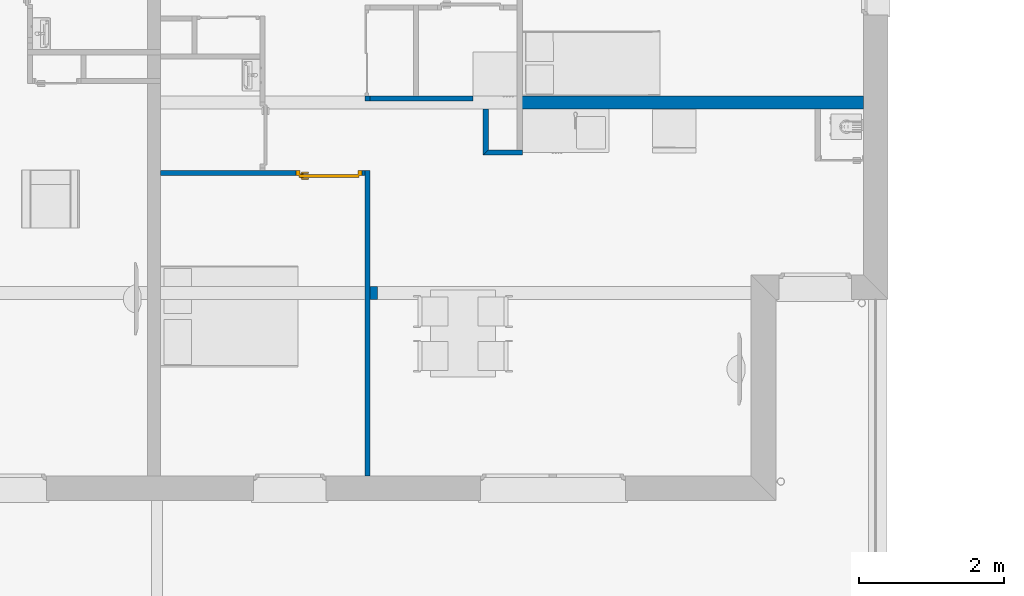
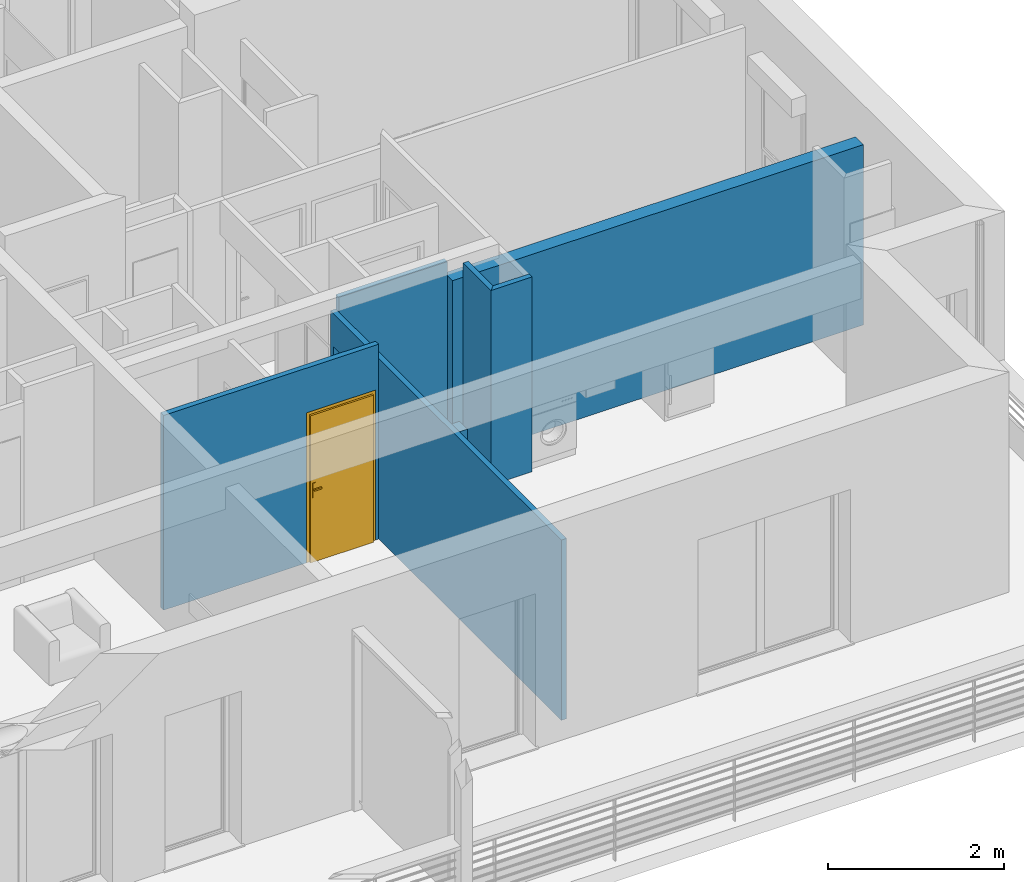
# One storey, part 7 of 165: 7 walls, 1 door, 2 openings.
"""IFC2X3 building model written with IfcOpenShell, lengths in millimetres."""

import ifcopenshell
import ifcopenshell.guid

model = None  # the IFC model being written
_history = None  # IfcOwnerHistory: only IFC2X3 demands one
_inside = {}  # id of a spatial element -> (the spatial element, [elements in it])
_under = {}  # id of a project, library or spatial element -> (it, [spatial elements below it])
_declared = {}  # id of a project -> (the project, [libraries it declares])
_typed = {}  # id of a type object -> (the type object, [elements of that type])
_made_of = {}  # id of a material, layer set ... -> (it, [elements and type objects made of it])


def new_model(schema):
    """Start an empty IFC model of exactly this schema.

    Asked for "IFC4X3", IfcOpenShell would pick the latest addendum, in which some entities
    have other attributes; the version numbers below select the first issue.
    IFC2X3 requires an IfcOwnerHistory on every rooted entity: one is made here for all.
    """
    global model, _history
    if schema == "IFC4X3":
        model = ifcopenshell.file(schema_version=(4, 3, 0, 0))
    else:
        model = ifcopenshell.file(schema=schema)
    _inside.clear()
    _under.clear()
    _declared.clear()
    _typed.clear()
    _made_of.clear()
    _history = None
    if model.schema == "IFC2X3":
        org = make("IfcOrganization", Name="unknown")
        user = make(
            "IfcPersonAndOrganization",
            ThePerson=make("IfcPerson", FamilyName="unknown"),
            TheOrganization=org,
        )
        app = make(
            "IfcApplication",
            ApplicationDeveloper=org,
            Version="unknown",
            ApplicationFullName="unknown",
            ApplicationIdentifier="unknown",
        )
        _history = make(
            "IfcOwnerHistory",
            OwningUser=user,
            OwningApplication=app,
            ChangeAction="ADDED",
            CreationDate=0,
        )
    return model


def make(cls, **values):
    """One entity of the class cls with the attributes given. An attribute that is None is left unset."""
    return model.create_entity(
        cls, **{name: value for name, value in values.items() if value is not None}
    )


def entity(cls, *values):
    """Any entity or typed value of the class cls, its attributes in the order of the schema. None: left unset."""
    e = model.create_entity(cls)
    for i, value in enumerate(values):
        if value is not None:
            e[i] = value
    return e


def rooted(cls, **values):
    """An entity with a GlobalId (a new one), such as an element, a storey or a relation."""
    return make(cls, GlobalId=ifcopenshell.guid.new(), OwnerHistory=_history, **values)


def si_unit(unit_type, name, prefix=None):
    """IfcSIUnit, for example si_unit("LENGTHUNIT", "METRE", prefix="MILLI")."""
    return make("IfcSIUnit", UnitType=unit_type, Prefix=prefix, Name=name)


def converted_unit(unit_type, name, factor, base, dimensions=None, offset=None):
    """IfcConversionBasedUnit, such as the inch: factor (a typed value) times the base unit."""
    return make(
        "IfcConversionBasedUnit"
        if offset is None
        else "IfcConversionBasedUnitWithOffset",
        ConversionOffset=offset,
        Dimensions=None
        if dimensions is None
        else entity("IfcDimensionalExponents", *dimensions),
        UnitType=unit_type,
        Name=name,
        ConversionFactor=make(
            "IfcMeasureWithUnit", ValueComponent=factor, UnitComponent=base
        ),
    )


def derived_unit(unit_type, elements):
    """IfcDerivedUnit: a product of units, each with its exponent."""
    return make(
        "IfcDerivedUnit",
        Elements=[
            make("IfcDerivedUnitElement", Unit=unit, Exponent=power)
            for unit, power in elements
        ],
        UnitType=unit_type,
    )


def money_unit(currency):
    """IfcMonetaryUnit."""
    return make("IfcMonetaryUnit", Currency=currency)


def assignment(units):
    """IfcUnitAssignment: the units of a project."""
    return None if units is None else make("IfcUnitAssignment", Units=units)


def point(xyz):
    """IfcCartesianPoint."""
    return None if xyz is None else make("IfcCartesianPoint", Coordinates=xyz)


def direction(xyz):
    """IfcDirection."""
    return None if xyz is None else make("IfcDirection", DirectionRatios=xyz)


def frame(location, z_axis=None, x_axis=None):
    """IfcAxis2Placement3D, a coordinate frame: its origin and axes. An axis left out is left unset."""
    return make(
        "IfcAxis2Placement3D",
        Location=point(location),
        Axis=direction(z_axis),
        RefDirection=direction(x_axis),
    )


def frame_2d(location, x_axis=None):
    """IfcAxis2Placement2D, a coordinate frame in the plane: its origin and x axis."""
    return make(
        "IfcAxis2Placement2D", Location=point(location), RefDirection=direction(x_axis)
    )


def origin_with_axes():
    """The frame at (0, 0, 0) with the z axis (0, 0, 1) and the x axis (1, 0, 0) written out."""
    return frame((0.0, 0.0, 0.0), z_axis=(0.0, 0.0, 1.0), x_axis=(1.0, 0.0, 0.0))


def origin_2d_with_axis():
    """The frame at (0, 0) in the plane with the x axis (1, 0) written out."""
    return frame_2d((0.0, 0.0), x_axis=(1.0, 0.0))


def place(relative_to, where):
    """IfcLocalPlacement: puts the frame where relative to a parent placement (None: the world)."""
    return make(
        "IfcLocalPlacement", PlacementRelTo=relative_to, RelativePlacement=where
    )


def context(
    kind, dimensions, precision=None, world=None, true_north=None, identifier=None
):
    """IfcGeometricRepresentationContext, for example the 3D "Model" context."""
    return make(
        "IfcGeometricRepresentationContext",
        ContextIdentifier=identifier,
        ContextType=kind,
        CoordinateSpaceDimension=dimensions,
        Precision=precision,
        WorldCoordinateSystem=world,
        TrueNorth=true_north,
    )


def subcontext(parent, identifier, kind, view, scale=None):
    """IfcGeometricRepresentationSubContext, for example "Body" below "Model"."""
    return make(
        "IfcGeometricRepresentationSubContext",
        ContextIdentifier=identifier,
        ContextType=kind,
        ParentContext=parent,
        TargetScale=scale,
        TargetView=view,
    )


def project(units=None, contexts=None):
    """IfcProject with its units and contexts."""
    return rooted(
        "IfcProject",
        Name="project",
        RepresentationContexts=contexts,
        UnitsInContext=assignment(units),
    )


def spatial(cls, under=None, at=None, **own):
    """A site, building, storey or space (cls), placed at a placement, below another one or the project."""
    s = rooted(cls, ObjectPlacement=at, **own)
    if under is not None:
        _under.setdefault(under.id(), (under, []))[1].append(s)
    return s


def polyline(points):
    """IfcPolyline through the points."""
    return make("IfcPolyline", Points=[point(p) for p in points])


def profile(cls, at=None, kind="AREA", **sizes):
    """A parametric profile (cls). Its sizes go by their IFC names, for example OverallWidth=200.0."""
    return make(cls, ProfileType=kind, Position=at, **sizes)


def rectangle(**sizes):
    """IfcRectangleProfileDef."""
    return profile("IfcRectangleProfileDef", **sizes)


def outline(outer, holes=None, kind="AREA"):
    """IfcArbitraryClosedProfileDef: a profile drawn as a closed curve; with holes, ...WithVoids."""
    if holes is None:
        return make("IfcArbitraryClosedProfileDef", ProfileType=kind, OuterCurve=outer)
    return make(
        "IfcArbitraryProfileDefWithVoids",
        ProfileType=kind,
        OuterCurve=outer,
        InnerCurves=holes,
    )


def extrude(swept, where, along, depth):
    """IfcExtrudedAreaSolid: the profile swept, set in the frame where, extruded along a direction by depth."""
    return make(
        "IfcExtrudedAreaSolid",
        SweptArea=swept,
        Position=where,
        ExtrudedDirection=direction(along),
        Depth=depth,
    )


def faces_of(points, faces, orient=None, outer=None):
    """IfcFace entities. A face is a list of loops; a loop is a list of indices into points, from 0.

    orient and outer hold one flag for each loop. By default every Orientation is true, the
    first loop of a face is its IfcFaceOuterBound and the others are IfcFaceBound.
    """
    made = []
    for i, loops in enumerate(faces):
        bounds = []
        for j, loop in enumerate(loops):
            is_outer = j == 0 if outer is None else outer[i][j]
            bounds.append(
                make(
                    "IfcFaceOuterBound" if is_outer else "IfcFaceBound",
                    Bound=make("IfcPolyLoop", Polygon=[points[k] for k in loop]),
                    Orientation=True if orient is None else orient[i][j],
                )
            )
        made.append(make("IfcFace", Bounds=bounds))
    return made


def faceted_brep(points, faces, orient=None, outer=None, voids=None):
    """IfcFacetedBrep: a solid bounded by flat faces; with voids (closed shells), ...WithVoids."""
    shared = [point(p) for p in points]
    hull = make("IfcClosedShell", CfsFaces=faces_of(shared, faces, orient, outer))
    if voids is None:
        return make("IfcFacetedBrep", Outer=hull)
    return make(
        "IfcFacetedBrepWithVoids",
        Outer=hull,
        Voids=[
            make(cls, CfsFaces=faces_of(shared, fs, o, b)) for cls, fs, o, b in voids
        ],
    )


def shape(context_of_items, identifier, shape_type, items):
    """IfcShapeRepresentation: the items that make up one representation, for example the "Body"."""
    return make(
        "IfcShapeRepresentation",
        ContextOfItems=context_of_items,
        RepresentationIdentifier=identifier,
        RepresentationType=shape_type,
        Items=items,
    )


def source(mapping_origin, context_of_items, identifier, shape_type, items):
    """IfcRepresentationMap: a shape defined once, which mapped items show again and again."""
    return make(
        "IfcRepresentationMap",
        MappingOrigin=mapping_origin,
        MappedRepresentation=shape(context_of_items, identifier, shape_type, items),
    )


def transform(
    local_origin,
    x_axis=None,
    y_axis=None,
    z_axis=None,
    scale=None,
    scale2=None,
    scale3=None,
    uniform=True,
):
    """IfcCartesianTransformationOperator3D, or its non-uniform kind. x_axis, y_axis, z_axis: its Axis1, 2, 3."""
    if uniform:
        return make(
            "IfcCartesianTransformationOperator3D",
            Axis1=direction(x_axis),
            Axis2=direction(y_axis),
            LocalOrigin=point(local_origin),
            Scale=scale,
            Axis3=direction(z_axis),
        )
    return make(
        "IfcCartesianTransformationOperator3DnonUniform",
        Axis1=direction(x_axis),
        Axis2=direction(y_axis),
        LocalOrigin=point(local_origin),
        Scale=scale,
        Axis3=direction(z_axis),
        Scale2=scale2,
        Scale3=scale3,
    )


def mapped(mapping_source, mapping_target):
    """IfcMappedItem: shows the shape of a source again, moved by a transform."""
    return make(
        "IfcMappedItem", MappingSource=mapping_source, MappingTarget=mapping_target
    )


def material(Name=None, Category=None):
    """IfcMaterial."""
    return make("IfcMaterial", Name=Name, Category=Category)


def layer(
    of_material, thickness, ventilated=None, Name=None, Category=None, Priority=None
):
    """IfcMaterialLayer: one layer of a wall or slab, of a material (None: an air gap)."""
    return make(
        "IfcMaterialLayer",
        Material=of_material,
        LayerThickness=thickness,
        IsVentilated=ventilated,
        Name=Name,
        Category=Category,
        Priority=Priority,
    )


def layer_set(layers, Name=None):
    """IfcMaterialLayerSet."""
    return make("IfcMaterialLayerSet", MaterialLayers=layers, LayerSetName=Name)


def layer_usage(for_layer_set, set_direction, sense, offset, extent=None):
    """IfcMaterialLayerSetUsage: how a layer set lies in its element."""
    return make(
        "IfcMaterialLayerSetUsage",
        ForLayerSet=for_layer_set,
        LayerSetDirection=set_direction,
        DirectionSense=sense,
        OffsetFromReferenceLine=offset,
        ReferenceExtent=extent,
    )


def made_of(thing, what):
    """Note that an element or type object is made of a material, layer set ...; save() writes the relation."""
    if what is not None:
        _made_of.setdefault(what.id(), (what, []))[1].append(thing)
    return thing


def type_object(cls, material=None, **own):
    """A type object (cls), such as IfcWallType, which elements share."""
    return made_of(rooted(cls, **own), material)


def element(
    cls,
    number,
    at=None,
    inside=None,
    cuts=None,
    type_object=None,
    material=None,
    context=None,
    identifier="Body",
    shape_type=None,
    held_by="IfcProductDefinitionShape",
    body=None,
    shapes=None,
    **own,
):
    """One element of the class cls, such as IfcWall. Its Tag is "e" and its number.

    at: its placement. inside: the storey or other place that contains it. cuts: it is an
    opening in that element (IfcRelVoidsElement). A single representation is given by context,
    identifier, shape_type and body (its items); several are given by shapes. held_by: the class
    of the entity that holds the representations. save() writes the other relations.
    """
    e = rooted(cls, Tag="e%d" % number, ObjectPlacement=at, **own)
    if body is not None:
        shapes = [shape(context, identifier, shape_type, body)]
    if shapes is not None:
        e.Representation = make(held_by, Representations=shapes)
    if inside is not None:
        _inside.setdefault(inside.id(), (inside, []))[1].append(e)
    if cuts is not None:
        rooted(
            "IfcRelVoidsElement", RelatingBuildingElement=cuts, RelatedOpeningElement=e
        )
    if type_object is not None:
        _typed.setdefault(type_object.id(), (type_object, []))[1].append(e)
    return made_of(e, material)


def fill(opening, filler):
    """IfcRelFillsElement: the door or window that sits in an opening."""
    return rooted(
        "IfcRelFillsElement",
        RelatingOpeningElement=opening,
        RelatedBuildingElement=filler,
    )


def aggregate(whole, parts):
    """IfcRelAggregates: a whole, such as a stair, and the parts it consists of."""
    return rooted("IfcRelAggregates", RelatingObject=whole, RelatedObjects=parts)


def save(model, path):
    """Write the relations noted so far, then the file.

    IfcRelAggregates (storeys below a building ...), IfcRelContainedInSpatialStructure (elements
    in a storey), IfcRelDefinesByType, IfcRelAssociatesMaterial and IfcRelDeclares: one each for
    every whole, place, type object, material and project.
    """
    for whole, parts in _under.values():
        aggregate(whole, parts)
    for where, things in _inside.values():
        rooted(
            "IfcRelContainedInSpatialStructure",
            RelatedElements=things,
            RelatingStructure=where,
        )
    for kind, things in _typed.values():
        rooted("IfcRelDefinesByType", RelatedObjects=things, RelatingType=kind)
    for what, things in _made_of.values():
        rooted("IfcRelAssociatesMaterial", RelatedObjects=things, RelatingMaterial=what)
    for by, libraries in _declared.values():
        rooted("IfcRelDeclares", RelatingContext=by, RelatedDefinitions=libraries)
    model.write(path)


model = new_model("IFC2X3")

# Units and contexts
model_context = context("Model", 3, precision=0.01, world=origin_with_axes(), true_north=direction((0.0, 1.0)))
body_context = subcontext(model_context, "Body", "Model", "MODEL_VIEW")
ifc_project = project(units=[si_unit("LENGTHUNIT", "METRE", prefix="MILLI"), si_unit("AREAUNIT", "SQUARE_METRE"), si_unit("VOLUMEUNIT", "CUBIC_METRE"), converted_unit("PLANEANGLEUNIT", "DEGREE", entity("IfcPlaneAngleMeasure", 0.0174532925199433), si_unit("PLANEANGLEUNIT", "RADIAN"), dimensions=[0, 0, 0, 0, 0, 0, 0]), money_unit("USD"), converted_unit("TIMEUNIT", "Year", entity("IfcTimeMeasure", 31557600.0), si_unit("TIMEUNIT", "SECOND"), dimensions=[0, 0, 1, 0, 0, 0, 0]), si_unit("MASSUNIT", "GRAM", prefix="KILO"), si_unit("THERMODYNAMICTEMPERATUREUNIT", "DEGREE_CELSIUS"), si_unit("LUMINOUSINTENSITYUNIT", "LUMEN"), si_unit("ENERGYUNIT", "JOULE", prefix="MEGA"), derived_unit("THERMALCONDUCTANCEUNIT", [(si_unit("POWERUNIT", "WATT"), 1), (si_unit("LENGTHUNIT", "METRE"), -1), (si_unit("THERMODYNAMICTEMPERATUREUNIT", "KELVIN"), -1)]), derived_unit("SPECIFICHEATCAPACITYUNIT", [(si_unit("ENERGYUNIT", "JOULE"), 1), (si_unit("MASSUNIT", "GRAM", prefix="KILO"), -1), (si_unit("THERMODYNAMICTEMPERATUREUNIT", "KELVIN"), -1)]), derived_unit("MASSDENSITYUNIT", [(si_unit("MASSUNIT", "GRAM", prefix="KILO"), 1), (si_unit("VOLUMEUNIT", "CUBIC_METRE"), -1)])], contexts=[model_context])

# Site, building, storey
site_placement = place(None, origin_with_axes())
site = spatial("IfcSite", under=ifc_project, at=site_placement, Name="Site", CompositionType="ELEMENT")
building_placement = place(site_placement, origin_with_axes())
building = spatial("IfcBuilding", under=site, at=building_placement, Name="Bâtiment", CompositionType="ELEMENT")
storey_placement = place(building_placement, frame((0.0, 0.0, 8500.0), z_axis=(0.0, 0.0, 1.0), x_axis=(1.0, 0.0, 0.0)))
storey = spatial("IfcBuildingStorey", under=building, at=storey_placement, Name="Etage 2", CompositionType="ELEMENT", Elevation=8500.0)

# Walls
ifc_material_1 = material(Name="Parpaing 314940890")
ifc_layer_1 = layer(ifc_material_1, 180.0, ventilated="UNKNOWN")
ifc_layer_set_1 = layer_set([ifc_layer_1], Name="Beton  18 0018356637")
ifc_layer_usage_1 = layer_usage(ifc_layer_set_1, "AXIS2", "POSITIVE", 0.0)
wall_type_1 = type_object("IfcWallType", Name="Beton  18 0018356637 180", PredefinedType="NOTDEFINED")
wall_1_placement = place(storey_placement, frame((2228626.880896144, -652413.3059493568, 0.0), z_axis=(0.0, 0.0, 1.0), x_axis=(0.9999999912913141, 0.0001319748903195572, 0.0)))
element("IfcWallStandardCase", 1, at=wall_1_placement, inside=storey, type_object=wall_type_1, material=ifc_layer_usage_1, Name="Mur-143", context=body_context, shape_type="SweptSolid", body=[
    extrude(outline(polyline([(0.0, 0.0), (5389.790447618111, 0.0), (5389.814203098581, 180.0000000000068), (0.0, 180.0000000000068), (0.0, 0.0)])), origin_with_axes(), (0.0, 0.0, 1.0), 2500.0),
])
ifc_material_2 = material(Name="Hachure solide 268963992")
ifc_layer_2 = layer(ifc_material_2, 70.0, ventilated="UNKNOWN")
ifc_layer_set_2 = layer_set([ifc_layer_2], Name="Cloison 70 0826278243")
ifc_layer_usage_2 = layer_usage(ifc_layer_set_2, "AXIS2", "NEGATIVE", 70.0)
wall_type_2 = type_object("IfcWallType", Name="Cloison 70 0826278243 70", PredefinedType="NOTDEFINED")
wall_2_placement = place(storey_placement, frame((2228766.880896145, -653046.8988032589, 0.0), z_axis=(0.0, 0.0, 1.0), x_axis=(0.999999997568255, -6.973872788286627e-05, 0.0)))
element("IfcWallStandardCase", 2, at=wall_2_placement, inside=storey, type_object=wall_type_2, material=ifc_layer_usage_2, Name="Mur-149", context=body_context, shape_type="SweptSolid", body=[
    extrude(outline(polyline([(0.0, 0.0), (539.9996485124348, 0.0), (539.9996485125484, 69.99999999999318), (69.99511845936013, 69.99999999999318), (0.0, 0.0)])), origin_with_axes(), (0.0, 0.0, 1.0), 2700.0),
])
ifc_layer_usage_3 = layer_usage(ifc_layer_set_2, "AXIS2", "NEGATIVE", 70.0)
wall_3_placement = place(storey_placement, frame((2227132.330502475, -652303.3050478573, 0.0), z_axis=(0.0, 0.0, 1.0), x_axis=(1.0, 0.0, 0.0)))
element("IfcWallStandardCase", 3, at=wall_3_placement, inside=storey, type_object=wall_type_2, material=ifc_layer_usage_3, Name="Mur-149", context=body_context, shape_type="SweptSolid", body=[
    extrude(outline(polyline([(70.00000000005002, 0.0), (1494.550393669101, 0.0), (1494.550393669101, 69.99999999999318), (70.00000000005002, 69.99999999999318), (70.00000000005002, 0.0)])), origin_with_axes(), (0.0, 0.0, 1.0), 2700.0),
])

# Wall, opening
ifc_layer_usage_4 = layer_usage(ifc_layer_set_2, "AXIS2", "NEGATIVE", 70.0)
wall_4_placement = place(storey_placement, frame((2227132.330502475, -652233.3050478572, 0.0), z_axis=(0.0, 0.0, 1.0), x_axis=(0.0, -1.0, 0.0)))
wall_4 = element("IfcWallStandardCase", 4, at=wall_4_placement, inside=storey, type_object=wall_type_2, material=ifc_layer_usage_4, Name="Mur-149", context=body_context, shape_type="SweptSolid", body=[
    extrude(outline(polyline([(0.0, 0.0), (5245.018029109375, 0.0), (5245.018029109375, 70.00000000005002), (0.0, 70.00000000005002), (0.0, 0.0)])), origin_with_axes(), (0.0, 0.0, 1.0), 2500.0),
])
opening_1_placement = place(wall_4_placement, frame((548.582836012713, 1.13686837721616e-10, 0.0), z_axis=(0.0, 0.0, 1.0), x_axis=(1.0, 0.0, 0.0)))
element("IfcOpeningElement", 5, at=opening_1_placement, cuts=wall_4, Name="Por-282", context=body_context, shape_type="SweptSolid", body=[
    extrude(rectangle(XDim=957.1656720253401, YDim=2039.999999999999, at=origin_2d_with_axis()), frame((0.0, 70.00000000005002, 1020.0), z_axis=(0.0, -1.0, 0.0), x_axis=(1.0, 0.0, 0.0)), (0.0, 0.0, -1.0), 70.0),
    extrude(rectangle(XDim=957.1656720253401, YDim=2039.999999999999, at=origin_2d_with_axis()), frame((0.0, 70.00000000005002, 1020.0), z_axis=(0.0, 1.0, 0.0), x_axis=(1.0, 0.0, 0.0)), (0.0, 0.0, -1.0), 70.0),
])

# Wall
ifc_layer_usage_5 = layer_usage(ifc_layer_set_2, "AXIS2", "NEGATIVE", 70.0)
wall_5_placement = place(storey_placement, frame((2228766.880896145, -652413.2682904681, 0.0), z_axis=(0.0, 0.0, 1.0), x_axis=(0.0, -1.0, 0.0)))
element("IfcWallStandardCase", 6, at=wall_5_placement, inside=storey, type_object=wall_type_2, material=ifc_layer_usage_5, Name="Mur-149", context=body_context, shape_type="SweptSolid", body=[
    extrude(outline(polyline([(0.0, 0.0), (633.6305127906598, 0.0), (563.6353943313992, 70.00000000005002), (0.0, 70.00000000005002), (0.0, 0.0)])), origin_with_axes(), (0.0, 0.0, 1.0), 2700.0),
])

# Wall, opening, door
ifc_layer_usage_6 = layer_usage(ifc_layer_set_2, "AXIS2", "NEGATIVE", 70.0)
wall_6_placement = place(storey_placement, frame((2224312.31835671, -653330.4707198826, 0.0), z_axis=(0.0, 0.0, 1.0), x_axis=(1.0, 0.0, 0.0)))
wall_6 = element("IfcWallStandardCase", 7, at=wall_6_placement, inside=storey, type_object=wall_type_2, material=ifc_layer_usage_6, Name="Mur-149", context=body_context, shape_type="SweptSolid", body=[
    extrude(outline(polyline([(0.0, 0.0), (2820.012145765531, 0.0), (2820.012145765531, 69.99999999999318), (0.0, 69.99999999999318), (0.0, 0.0)])), origin_with_axes(), (0.0, 0.0, 1.0), 2700.0),
])
opening_2_placement = place(wall_6_placement, frame((2324.969748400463, 0.0, 0.0), z_axis=(0.0, 0.0, 1.0), x_axis=(1.0, 0.0, 0.0)))
opening_2 = element("IfcOpeningElement", 8, at=opening_2_placement, cuts=wall_6, Name="Por-281", context=body_context, shape_type="SweptSolid", body=[
    extrude(rectangle(XDim=910.0, YDim=2080.0, at=origin_2d_with_axis()), frame((0.0, 69.99999999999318, 1039.999999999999), z_axis=(0.0, 1.0, 0.0), x_axis=(1.0, 0.0, 0.0)), (0.0, 0.0, -1.0), 140.0),
])
door_style = type_object("IfcDoorStyle", Name="Porte_1v", ConstructionType="NOTDEFINED", OperationType="NOTDEFINED", ParameterTakesPrecedence=False, Sizeable=False)
shared_shape = source(origin_with_axes(), body_context, "Body", "Brep", [
    faceted_brep([(-454.9999999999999, 0.0, 0.0), (-454.9999999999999, 0.0, 2080.0), (454.9999999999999, 0.0, 2080.0), (454.9999999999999, 0.0, 0.0), (414.9999999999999, 0.0, 0.0), (414.9999999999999, 0.0, 2040.0), (-414.9999999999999, 0.0, 2040.0), (-414.9999999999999, 0.0, 0.0), (-454.9999999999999, -69.99999999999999, 0.0), (-454.9999999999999, -69.99999999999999, 2080.0), (454.9999999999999, -69.99999999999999, 2080.0), (454.9999999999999, -69.99999999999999, 0.0), (399.9999999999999, -69.99999999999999, 0.0), (399.9999999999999, -15.0, 0.0), (414.9999999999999, -15.0, 0.0), (414.9999999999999, -15.0, 2040.0), (-414.9999999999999, -14.99999999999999, 2040.0), (-414.9999999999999, -14.99999999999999, 0.0), (-399.9999999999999, -14.99999999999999, 0.0), (-399.9999999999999, -69.99999999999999, 0.0), (-399.9999999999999, -69.99999999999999, 2025.0), (399.9999999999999, -69.99999999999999, 2025.0), (399.9999999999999, -15.0, 2025.0), (-399.9999999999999, -14.99999999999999, 2025.0)], [[[0, 1, 2, 3, 4, 5, 6, 7]], [[8, 9, 1, 0]], [[9, 10, 2, 1]], [[10, 11, 3, 2]], [[3, 11, 12, 13, 14, 4]], [[5, 4, 14, 15]], [[6, 5, 15, 16]], [[7, 6, 16, 17]], [[0, 7, 17, 18, 19, 8]], [[19, 20, 21, 12, 11, 10, 9, 8]], [[22, 13, 12, 21]], [[17, 16, 15, 14, 13, 22, 23, 18]], [[18, 23, 20, 19]], [[23, 22, 21, 20]]]),
    faceted_brep([(350.0, -15.0, 900.0), (350.0, -15.0, 1100.0), (389.9999999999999, -15.0, 1100.0), (389.9999999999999, -15.0, 900.0), (350.0, -25.0, 900.0), (350.0, -25.0, 1100.0), (389.9999999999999, -25.0, 1100.0), (389.9999999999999, -25.0, 900.0)], [[[0, 1, 2, 3]], [[0, 4, 5, 1]], [[1, 5, 6, 2]], [[2, 6, 7, 3]], [[3, 7, 4, 0]], [[7, 6, 5, 4]]]),
    faceted_brep([(279.9999999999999, -25.0, 1000.0), (279.9999999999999, -25.0, 1020.0), (379.9999999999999, -25.0, 1020.0), (379.9999999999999, -25.0, 1000.0), (279.9999999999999, -45.0, 1000.0), (279.9999999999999, -45.0, 1020.0), (379.9999999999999, -45.0, 1020.0), (379.9999999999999, -45.0, 1000.0)], [[[0, 1, 2, 3]], [[0, 4, 5, 1]], [[1, 5, 6, 2]], [[2, 6, 7, 3]], [[3, 7, 4, 0]], [[7, 6, 5, 4]]]),
    faceted_brep([(350.0, 34.99999999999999, 900.0), (350.0, 34.99999999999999, 1100.0), (389.9999999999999, 34.99999999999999, 1100.0), (389.9999999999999, 34.99999999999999, 900.0), (350.0, 24.99999999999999, 900.0), (350.0, 24.99999999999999, 1100.0), (389.9999999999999, 24.99999999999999, 1100.0), (389.9999999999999, 24.99999999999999, 900.0)], [[[0, 1, 2, 3]], [[0, 4, 5, 1]], [[1, 5, 6, 2]], [[2, 6, 7, 3]], [[3, 7, 4, 0]], [[7, 6, 5, 4]]]),
    faceted_brep([(279.9999999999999, 54.99999999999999, 1000.0), (279.9999999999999, 54.99999999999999, 1020.0), (379.9999999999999, 54.99999999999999, 1020.0), (379.9999999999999, 54.99999999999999, 1000.0), (279.9999999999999, 34.99999999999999, 1000.0), (279.9999999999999, 34.99999999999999, 1020.0), (379.9999999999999, 34.99999999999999, 1020.0), (379.9999999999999, 34.99999999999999, 1000.0)], [[[0, 1, 2, 3]], [[0, 4, 5, 1]], [[1, 5, 6, 2]], [[2, 6, 7, 3]], [[3, 7, 4, 0]], [[7, 6, 5, 4]]]),
    faceted_brep([(414.9999999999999, 24.99999999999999, 0.0), (414.9999999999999, -15.0, 0.0), (-414.9999999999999, -14.99999999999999, 0.0), (-414.9999999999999, 25.0, 0.0), (414.9999999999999, 24.99999999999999, 2040.0), (414.9999999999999, -15.0, 2040.0), (-414.9999999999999, -14.99999999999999, 2040.0), (-414.9999999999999, 25.0, 2040.0)], [[[0, 1, 2, 3]], [[4, 5, 1, 0]], [[1, 5, 6, 2]], [[3, 2, 6, 7]], [[0, 3, 7, 4]], [[7, 6, 5, 4]]]),
])
door_placement = place(opening_2_placement, frame((414.9999999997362, 0.0, 0.0), z_axis=(0.0, 0.0, 1.0), x_axis=(-1.0, 0.0, 0.0)))
door = element("IfcDoor", 9, at=door_placement, inside=storey, type_object=door_style, Name="Por-281", OverallHeight=2040.0, OverallWidth=830.0, context=body_context, shape_type="MappedRepresentation", body=[
    mapped(shared_shape, transform((414.9999999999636, 0.0, 0.0))),
])
fill(opening_2, door)

# Wall
ifc_material_3 = material(Name="Parpaing 312445824")
ifc_layer_3 = layer(ifc_material_3, 180.0, ventilated="UNKNOWN")
ifc_layer_set_3 = layer_set([ifc_layer_3], Name="Beton  18 0836643197")
ifc_layer_usage_7 = layer_usage(ifc_layer_set_3, "AXIS2", "NEGATIVE", 0.0)
wall_type_3 = type_object("IfcWallType", Name="Beton  18 0836643197 180", PredefinedType="NOTDEFINED")
wall_7_placement = place(storey_placement, frame((2227308.402980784, -655041.4677782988, 0.0), z_axis=(0.0, 0.0, 1.0), x_axis=(-1.0, 0.0, 0.0)))
element("IfcWallStandardCase", 10, at=wall_7_placement, inside=storey, type_object=wall_type_3, material=ifc_layer_usage_7, Name="Mur-143", context=body_context, shape_type="SweptSolid", body=[
    extrude(outline(polyline([(0.0, -180.0000000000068), (106.0724783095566, -180.0000000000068), (106.0724783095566, 0.0), (0.0, 0.0), (0.0, -180.0000000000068)])), origin_with_axes(), (0.0, 0.0, 1.0), 2500.0),
])

save(model, "model.ifc")
